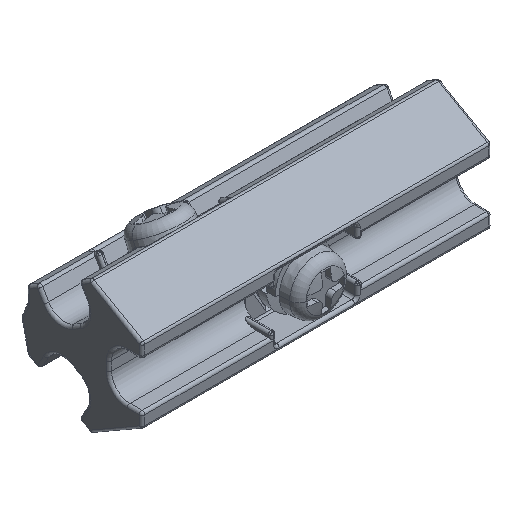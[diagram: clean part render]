
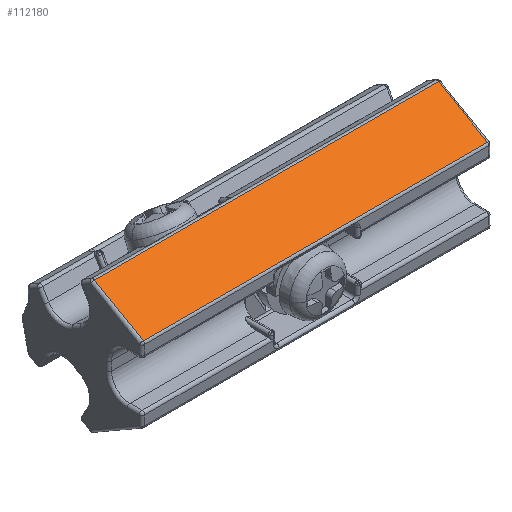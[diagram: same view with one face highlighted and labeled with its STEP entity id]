
A CAD part, isometric view. The second image highlights one B-rep face of the part: STEP entity #112180.
In plain terms, the highlighted planar face has unit normal (0, -0.5, 0.866) as drawn and (0, 0.866, 0.5) by its records, which use the part's own axes.
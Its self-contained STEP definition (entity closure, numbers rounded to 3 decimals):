
#38880=CARTESIAN_POINT('',(111.102,59.592,
0.739));
#38890=VERTEX_POINT('',#38880);
#43370=CARTESIAN_POINT('',(111.102,56.525,
6.05));
#43380=VERTEX_POINT('',#43370);
#43410=CARTESIAN_POINT('',(111.102,57.972,
3.545));
#43420=DIRECTION('',(0.,-0.5,
0.866));
#43430=VECTOR('',#43420,1.);
#43440=LINE('',#43410,#43430);
#43450=EDGE_CURVE('',#38890,#43380,#43440,.T.);
#49870=CARTESIAN_POINT('',(73.702,59.592,
0.739));
#49880=VERTEX_POINT('',#49870);
#50430=CARTESIAN_POINT('',(73.702,56.525,
6.05));
#50440=VERTEX_POINT('',#50430);
#54230=CARTESIAN_POINT('',(73.702,57.972,
3.545));
#54240=DIRECTION('',(0.,0.5,
-0.866));
#54250=VECTOR('',#54240,1.);
#54260=LINE('',#54230,#54250);
#54270=EDGE_CURVE('',#50440,#49880,#54260,.T.);
#111970=CARTESIAN_POINT('',(73.402,59.678,
0.589));
#111980=DIRECTION('',(0.,-0.866,
-0.5));
#111990=DIRECTION('',(0.,0.5,
-0.866));
#112000=AXIS2_PLACEMENT_3D('',#111970,#111980,#111990);
#112010=PLANE('',#112000);
#112020=ORIENTED_EDGE('',*,*,#43450,.F.);
#112030=CARTESIAN_POINT('',(73.402,56.525,
6.05));
#112040=DIRECTION('',(-1.,0.,0.));
#112050=VECTOR('',#112040,1.);
#112060=LINE('',#112030,#112050);
#112070=EDGE_CURVE('',#43380,#50440,#112060,.T.);
#112080=ORIENTED_EDGE('',*,*,#112070,.F.);
#112090=ORIENTED_EDGE('',*,*,#54270,.F.);
#112100=CARTESIAN_POINT('',(73.402,59.592,
0.739));
#112110=DIRECTION('',(-1.,0.,0.));
#112120=VECTOR('',#112110,1.);
#112130=LINE('',#112100,#112120);
#112140=EDGE_CURVE('',#38890,#49880,#112130,.T.);
#112150=ORIENTED_EDGE('',*,*,#112140,.T.);
#112160=EDGE_LOOP('',(#112150,#112090,#112080,#112020));
#112170=FACE_OUTER_BOUND('',#112160,.T.);
#112180=ADVANCED_FACE('',(#112170),#112010,.F.);
